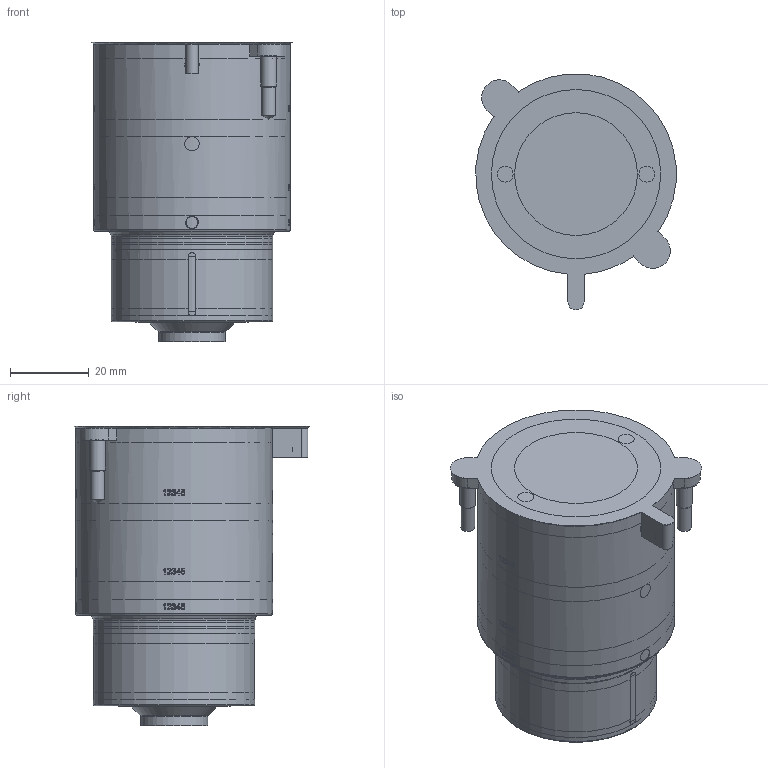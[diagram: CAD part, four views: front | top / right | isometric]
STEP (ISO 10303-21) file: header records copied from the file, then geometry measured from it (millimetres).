
FILE_DESCRIPTION(/* description */ (''),/* implementation_level */ '2;1');
FILE_NAME(/* name */ '83-007-016_CoolingInsertAssemblyTT-IT-OTX16-76.stp',/* time_stamp */ '2021-09-22T15:33:22+12:00',/* author */ (''),/* organization */ (''),/* preprocessor_version */ 'ST-DEVELOPER v16.7',/* originating_system */ 'SIEMENS PLM Software NX 12.0',/* authorisation */ '');
FILE_SCHEMA (('AP203_CONFIGURATION_CONTROLLED_3D_DESIGN_OF_MECHANICAL_PARTS_AND_ASSEMBLIES_MIM_LF { 1 0 10303 403 2 1 2}'));
Length unit declared in the file: millimetre
Products named in the file (1): Matt09681A55syrd
Bounding box: 50.82 x 59.91 x 76 mm (x, y, z)
Volume: 194919.6 mm3; surface area: 45208.1 mm2
Topology: 15 solids, 15 shells, 911 faces, 2276 edges, 1494 vertices
Faces by surface type: plane 391, cylinder 323, extrusion 88, cone 59, torus 36, revolution 8, bspline 6
Full cylindrical faces by diameter (mm): 0.421 x3, 1 x1, 3 x5, 3.02 x5, 3.05 x8, 3.5 x2, 4 x2, 7.6 x2, 12.01 x1, 16.795 x1, 16.995 x1, 17.01 x1, 25.2 x2, 30 x1, 30.2 x2, 30.4 x1, 30.8 x1, 37.7 x2, 40.8 x1, 40.94 x2, 41 x2, 44 x3, 49.8 x3, 50 x1
Entity records: 38366 total; most frequent: CARTESIAN_POINT 17572, ORIENTED_EDGE 4110, DIRECTION 3735, EDGE_CURVE 2055, VERTEX_POINT 1443, AXIS2_PLACEMENT_3D 1352, EDGE_LOOP 1171, VECTOR 1023
